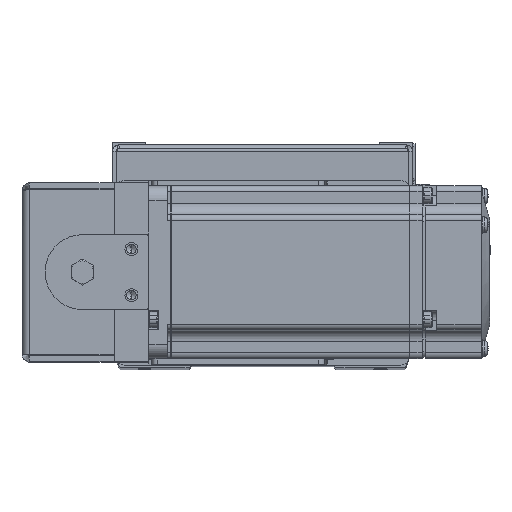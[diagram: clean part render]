
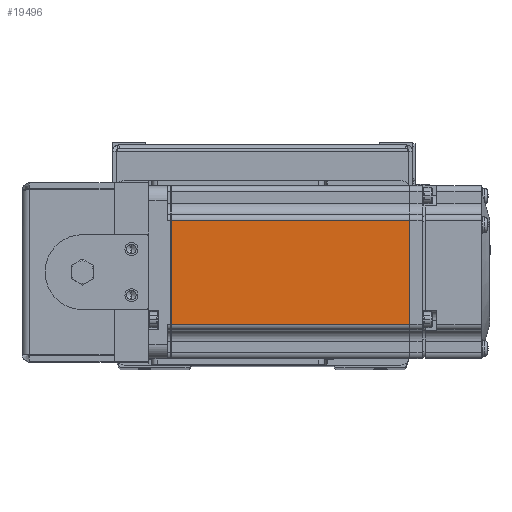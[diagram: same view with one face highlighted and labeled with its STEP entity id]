
A CAD part, top view. The second image highlights one B-rep face of the part: STEP entity #19496.
In plain terms, the highlighted planar face has unit normal (0, 0, 1) as drawn and (0, -1, 0) by its records, which use the part's own axes.
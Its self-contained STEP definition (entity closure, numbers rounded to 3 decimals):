
#169 = DIRECTION ( 'NONE',  ( 0., 0., -1. ) ) ;
#1803 = VECTOR ( 'NONE', #169, 1000. ) ;
#3657 = VERTEX_POINT ( 'NONE', #8654 ) ;
#3847 = FACE_OUTER_BOUND ( 'NONE', #21543, .T. ) ;
#3979 = CARTESIAN_POINT ( 'NONE',  ( -7.75, -30., 0. ) ) ;
#4108 = ORIENTED_EDGE ( 'NONE', *, *, #7176, .T. ) ;
#4234 = CARTESIAN_POINT ( 'NONE',  ( -90.45, -30., 0. ) ) ;
#4264 = VECTOR ( 'NONE', #14257, 1000. ) ;
#4970 = CARTESIAN_POINT ( 'NONE',  ( -90.45, -30., -18. ) ) ;
#5883 = LINE ( 'NONE', #9928, #4264 ) ;
#6272 = CARTESIAN_POINT ( 'NONE',  ( -7.75, -30., 18. ) ) ;
#7176 = EDGE_CURVE ( 'NONE', #34498, #3657, #5883, .T. ) ;
#8654 = CARTESIAN_POINT ( 'NONE',  ( -90.45, -30., 18. ) ) ;
#9928 = CARTESIAN_POINT ( 'NONE',  ( -6.5, -30., 18. ) ) ;
#11159 = VERTEX_POINT ( 'NONE', #27241 ) ;
#12032 = EDGE_CURVE ( 'NONE', #3657, #37086, #19998, .T. ) ;
#12535 = EDGE_CURVE ( 'NONE', #11159, #37086, #21443, .T. ) ;
#14257 = DIRECTION ( 'NONE',  ( -1., 0., 0. ) ) ;
#18372 = DIRECTION ( 'NONE',  ( 0., -1., 0. ) ) ;
#19376 = CARTESIAN_POINT ( 'NONE',  ( -6.5, -30., -25. ) ) ;
#19496 = ADVANCED_FACE ( 'NONE', ( #3847 ), #34125, .T. ) ;
#19748 = DIRECTION ( 'NONE',  ( 0., 0., -1. ) ) ;
#19998 = LINE ( 'NONE', #4234, #20286 ) ;
#20286 = VECTOR ( 'NONE', #19748, 1000. ) ;
#21443 = LINE ( 'NONE', #47374, #23076 ) ;
#21543 = EDGE_LOOP ( 'NONE', ( #33874, #4108, #46014, #40760 ) ) ;
#22568 = LINE ( 'NONE', #3979, #1803 ) ;
#23076 = VECTOR ( 'NONE', #40485, 1000. ) ;
#27241 = CARTESIAN_POINT ( 'NONE',  ( -7.75, -30., -18. ) ) ;
#31696 = AXIS2_PLACEMENT_3D ( 'NONE', #19376, #18372, #45570 ) ;
#31732 = EDGE_CURVE ( 'NONE', #34498, #11159, #22568, .T. ) ;
#33874 = ORIENTED_EDGE ( 'NONE', *, *, #31732, .F. ) ;
#34125 = PLANE ( 'NONE',  #31696 ) ;
#34498 = VERTEX_POINT ( 'NONE', #6272 ) ;
#37086 = VERTEX_POINT ( 'NONE', #4970 ) ;
#40485 = DIRECTION ( 'NONE',  ( -1., 0., 0. ) ) ;
#40760 = ORIENTED_EDGE ( 'NONE', *, *, #12535, .F. ) ;
#45570 = DIRECTION ( 'NONE',  ( 0., 0., -1. ) ) ;
#46014 = ORIENTED_EDGE ( 'NONE', *, *, #12032, .T. ) ;
#47374 = CARTESIAN_POINT ( 'NONE',  ( -6.5, -30., -18. ) ) ;
